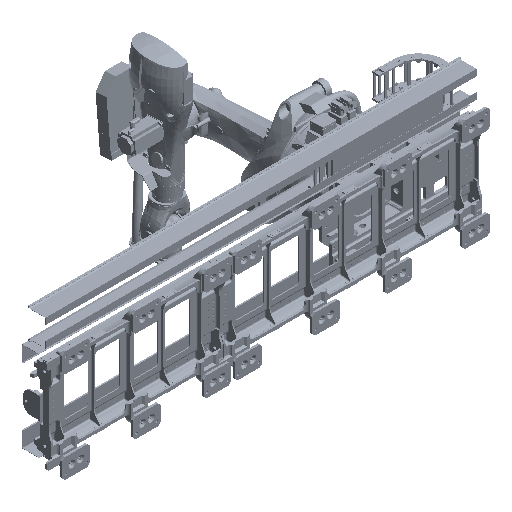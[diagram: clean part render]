
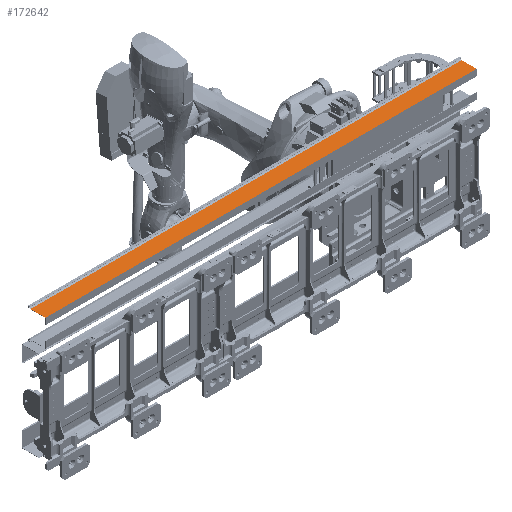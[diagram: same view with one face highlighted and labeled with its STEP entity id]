
A CAD part, isometric view. The second image highlights one B-rep face of the part: STEP entity #172642.
In plain terms, the highlighted planar face has unit normal (0, 0, 1).
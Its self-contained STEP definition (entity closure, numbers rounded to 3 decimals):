
#172629=AXIS2_PLACEMENT_3D('Plane Axis2P3D',#172626,#172627,#172628) ;
#172341=CARTESIAN_POINT('Vertex',(-3040.,-3486.938,-1361.346)) ;
#172344=CARTESIAN_POINT('Line Origine',(-3040.,-3574.241,-1361.346)) ;
#172348=CARTESIAN_POINT('Vertex',(-3040.,-3661.543,-1361.346)) ;
#172434=CARTESIAN_POINT('Vertex',(-8040.,-3661.543,-1361.346)) ;
#172437=CARTESIAN_POINT('Line Origine',(-8040.,-3574.241,-1361.346)) ;
#172441=CARTESIAN_POINT('Vertex',(-8040.,-3486.938,-1361.346)) ;
#172613=CARTESIAN_POINT('Line Origine',(-5540.,-3486.938,-1361.346)) ;
#172626=CARTESIAN_POINT('Axis2P3D Location',(-3040.,-3661.543,-1361.346)) ;
#172631=CARTESIAN_POINT('Line Origine',(-5540.,-3661.543,-1361.346)) ;
#172345=DIRECTION('Vector Direction',(0.,1.,0.)) ;
#172438=DIRECTION('Vector Direction',(0.,1.,0.)) ;
#172614=DIRECTION('Vector Direction',(1.,0.,0.)) ;
#172627=DIRECTION('Axis2P3D Direction',(0.,0.,1.)) ;
#172628=DIRECTION('Axis2P3D XDirection',(0.,1.,0.)) ;
#172632=DIRECTION('Vector Direction',(-1.,0.,0.)) ;
#172346=VECTOR('Line Direction',#172345,1.) ;
#172439=VECTOR('Line Direction',#172438,1.) ;
#172615=VECTOR('Line Direction',#172614,1.) ;
#172633=VECTOR('Line Direction',#172632,1.) ;
#172637=ORIENTED_EDGE('',*,*,#172350,.F.) ;
#172638=ORIENTED_EDGE('',*,*,#172617,.F.) ;
#172639=ORIENTED_EDGE('',*,*,#172443,.F.) ;
#172640=ORIENTED_EDGE('',*,*,#172635,.F.) ;
#172642=ADVANCED_FACE('\X2\96F64EF651E04F554F53\X0\.2',(#172641),#172630,.T.) ;
#172350=EDGE_CURVE('',#172342,#172349,#172347,.F.) ;
#172443=EDGE_CURVE('',#172435,#172442,#172440,.T.) ;
#172617=EDGE_CURVE('',#172442,#172342,#172616,.T.) ;
#172635=EDGE_CURVE('',#172349,#172435,#172634,.T.) ;
#172636=EDGE_LOOP('',(#172637,#172638,#172639,#172640)) ;
#172641=FACE_OUTER_BOUND('',#172636,.T.) ;
#172347=LINE('Line',#172344,#172346) ;
#172440=LINE('Line',#172437,#172439) ;
#172616=LINE('Line',#172613,#172615) ;
#172634=LINE('Line',#172631,#172633) ;
#172630=PLANE('',#172629) ;
#172342=VERTEX_POINT('',#172341) ;
#172349=VERTEX_POINT('',#172348) ;
#172435=VERTEX_POINT('',#172434) ;
#172442=VERTEX_POINT('',#172441) ;
